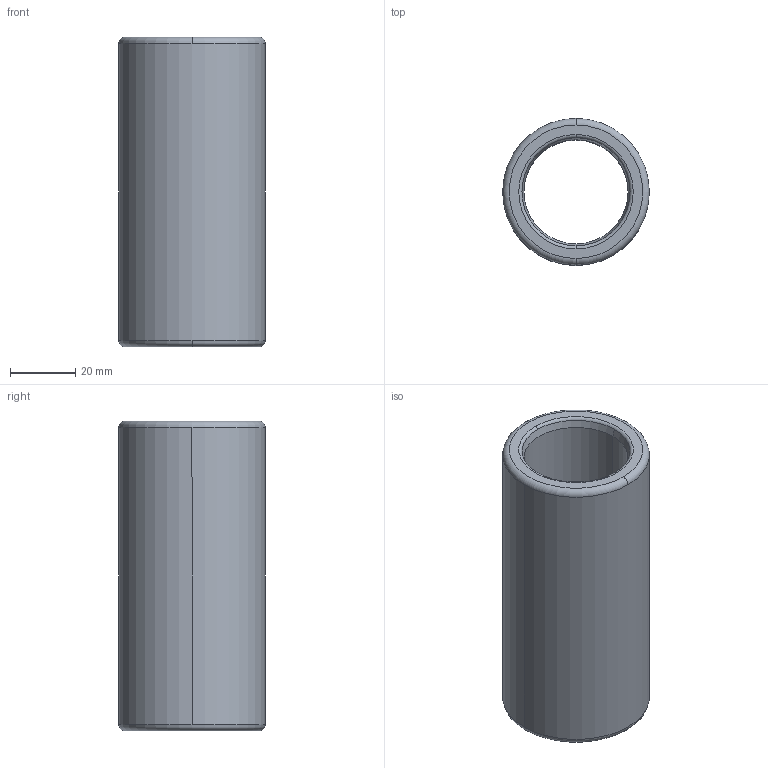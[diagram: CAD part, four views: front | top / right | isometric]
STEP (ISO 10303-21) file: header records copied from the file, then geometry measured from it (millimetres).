
FILE_DESCRIPTION((''),'2;1');
FILE_NAME('B30_024_095.stp','2009-01-12T09:57:08',(''),(''),'Mechanical Desktop 2009','Mechanical Desktop 2009',', , ');
FILE_SCHEMA(('CONFIG_CONTROL_DESIGN'));
Length unit declared in the file: millimetre
Products named in the file (2): Product; blmdl1
Assembly tree (1 placements, depth 2):
  Product
    blmdl1
Bounding box: 44.99 x 44.99 x 95 mm (x, y, z)
Volume: 74267.8 mm3; surface area: 24117.5 mm2
Topology: 1 solids, 1 shells, 18 faces, 48 edges, 32 vertices
Faces by surface type: torus 8, cylinder 4, cone 4, plane 2
Entity records: 705 total; most frequent: DIRECTION 128, CARTESIAN_POINT 100, ORIENTED_EDGE 96, AXIS2_PLACEMENT_3D 60, EDGE_CURVE 48, CIRCLE 40, VERTEX_POINT 32, EDGE_LOOP 20
